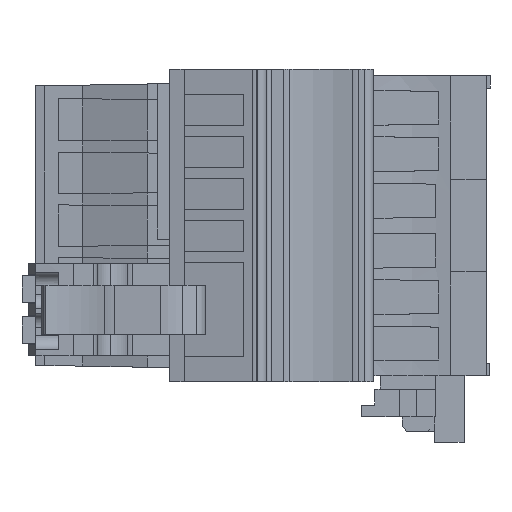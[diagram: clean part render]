
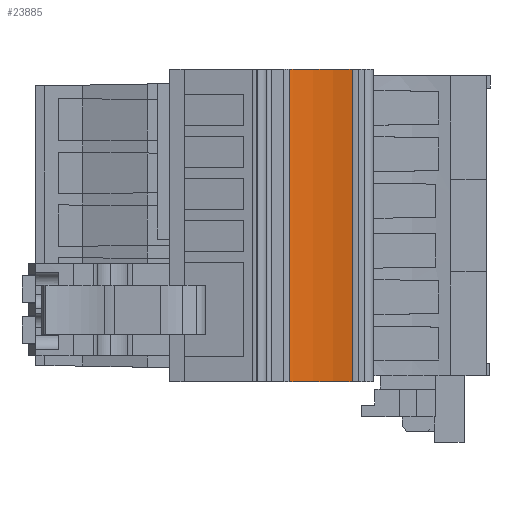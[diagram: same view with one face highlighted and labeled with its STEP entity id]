
A CAD part, left-side view. The second image highlights one B-rep face of the part: STEP entity #23885.
In plain terms, the highlighted cylindrical face has radius 15.05 mm (diameter 30.1 mm), a partial arc.
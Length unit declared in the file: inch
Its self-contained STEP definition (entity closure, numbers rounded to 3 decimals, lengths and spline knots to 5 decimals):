
#4969=CARTESIAN_POINT('',(-3.58319,0.5,
0.));
#4970=DIRECTION('',(0.,0.,1.));
#4971=DIRECTION('',(0.981,0.196,0.));
#4972=AXIS2_PLACEMENT_3D('',#4969,#4970,#4971);
#4974=CARTESIAN_POINT('',(-3.58319,0.5,
0.));
#4975=DIRECTION('',(0.,0.,1.));
#4976=DIRECTION('',(0.97,-0.243,0.));
#4977=AXIS2_PLACEMENT_3D('',#4974,#4975,#4976);
#5089=CARTESIAN_POINT('',(-3.58319,0.5,
1.37795));
#5090=DIRECTION('',(0.,0.,-1.));
#5091=DIRECTION('',(0.981,0.196,0.));
#5092=AXIS2_PLACEMENT_3D('',#5089,#5090,#5091);
#5094=CARTESIAN_POINT('',(-3.58319,0.5,
1.37795));
#5095=DIRECTION('',(0.,0.,-1.));
#5096=DIRECTION('',(0.976,0.22,0.));
#5097=AXIS2_PLACEMENT_3D('',#5094,#5095,#5096);
#5266=DIRECTION('',(0.,0.,1.));
#5267=VECTOR('',#5266,1.37795);
#5268=CARTESIAN_POINT('',(-3.00843,0.35603,
0.));
#5269=LINE('',#5268,#5267);
#5274=DIRECTION('',(0.,0.,1.));
#5275=VECTOR('',#5274,1.37795);
#5276=CARTESIAN_POINT('',(-3.00515,0.63017,
0.));
#5277=LINE('',#5276,#5275);
#15191=CARTESIAN_POINT('',(-3.00515,0.63017,
0.));
#15192=VERTEX_POINT('',#15191);
#15193=CARTESIAN_POINT('',(-3.00216,0.6161,
0.));
#15194=VERTEX_POINT('',#15193);
#15195=CARTESIAN_POINT('',(-3.00843,0.35603,
0.));
#15196=VERTEX_POINT('',#15195);
#16022=CARTESIAN_POINT('',(-3.00843,0.35603,
1.37795));
#16023=VERTEX_POINT('',#16022);
#16024=CARTESIAN_POINT('',(-3.00515,0.63017,
1.37795));
#16025=CARTESIAN_POINT('',(-3.00216,0.6161,
1.37795));
#16026=VERTEX_POINT('',#16024);
#16027=VERTEX_POINT('',#16025);
#23871=CARTESIAN_POINT('',(-3.58319,0.5,
1.37795));
#23872=DIRECTION('',(0.,0.,-1.));
#23873=DIRECTION('',(-0.981,-0.196,
0.));
#23874=AXIS2_PLACEMENT_3D('',#23871,#23872,#23873);
#23875=CYLINDRICAL_SURFACE('',#23874,0.59252);
#23876=ORIENTED_EDGE('',*,*,#23617,.T.);
#23878=ORIENTED_EDGE('',*,*,#23877,.T.);
#23879=ORIENTED_EDGE('',*,*,#23717,.T.);
#23880=ORIENTED_EDGE('',*,*,#23715,.T.);
#23881=ORIENTED_EDGE('',*,*,#23866,.F.);
#23882=ORIENTED_EDGE('',*,*,#23619,.T.);
#23883=EDGE_LOOP('',(#23876,#23878,#23879,#23880,#23881,#23882));
#23884=FACE_OUTER_BOUND('',#23883,.F.);
#23885=ADVANCED_FACE('',(#23884),#23875,.F.);
#4973=CIRCLE('',#4972,0.59252);
#4978=CIRCLE('',#4977,0.59252);
#5093=CIRCLE('',#5092,0.59252);
#5098=CIRCLE('',#5097,0.59252);
#23617=EDGE_CURVE('',#15194,#15192,#4973,.T.);
#23619=EDGE_CURVE('',#15196,#15194,#4978,.T.);
#23715=EDGE_CURVE('',#16027,#16023,#5093,.T.);
#23717=EDGE_CURVE('',#16026,#16027,#5098,.T.);
#23866=EDGE_CURVE('',#15196,#16023,#5269,.T.);
#23877=EDGE_CURVE('',#15192,#16026,#5277,.T.);
